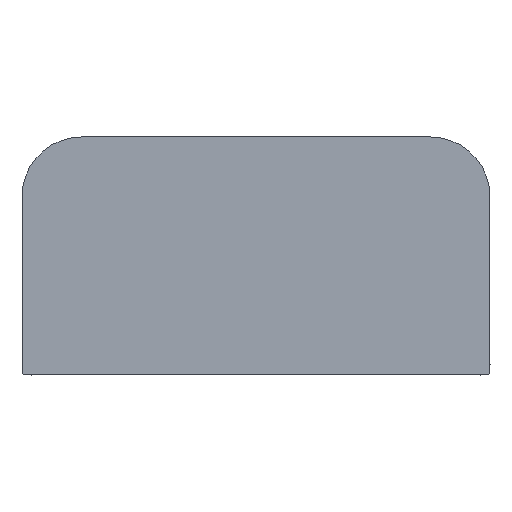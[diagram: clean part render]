
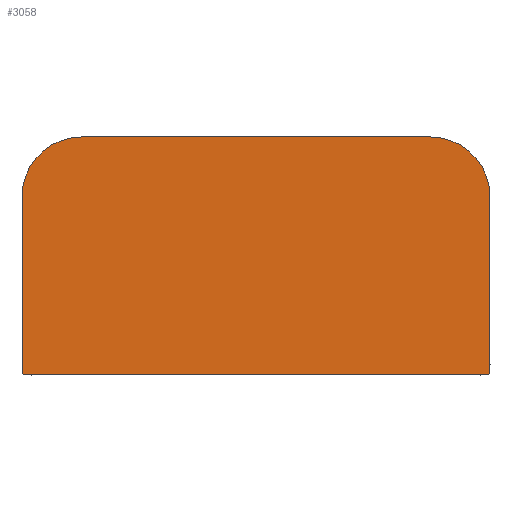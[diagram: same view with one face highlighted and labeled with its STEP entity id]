
A CAD part, front view. The second image highlights one B-rep face of the part: STEP entity #3058.
In plain terms, the highlighted planar face has unit normal (0, -1, 0).
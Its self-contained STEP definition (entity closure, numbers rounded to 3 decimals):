
#20=PLANE('',#3197);
#36=LINE('',#21586,#58);
#42=LINE('',#54538,#64);
#43=LINE('',#54540,#65);
#44=LINE('',#54543,#66);
#58=VECTOR('',#3303,10.);
#64=VECTOR('',#3363,10.);
#65=VECTOR('',#3364,10.);
#66=VECTOR('',#3367,10.);
#84=CIRCLE('',#3140,1.);
#109=CIRCLE('',#3169,15.);
#119=CIRCLE('',#3182,1.);
#133=CIRCLE('',#3198,15.);
#253=FACE_OUTER_BOUND('',#419,.T.);
#419=EDGE_LOOP('',(#2353,#2354,#2355,#2356,#2357,#2358,#2359,#2360));
#922=VERTEX_POINT('',#4489);
#923=VERTEX_POINT('',#4490);
#1034=VERTEX_POINT('',#21576);
#1035=VERTEX_POINT('',#21578);
#1108=VERTEX_POINT('',#47102);
#1109=VERTEX_POINT('',#47103);
#1136=VERTEX_POINT('',#54539);
#1137=VERTEX_POINT('',#54541);
#1278=EDGE_CURVE('',#922,#923,#84,.F.);
#1431=EDGE_CURVE('',#1035,#1034,#109,.F.);
#1434=EDGE_CURVE('',#923,#1035,#36,.T.);
#1546=EDGE_CURVE('',#1108,#1109,#119,.F.);
#1590=EDGE_CURVE('',#1108,#922,#42,.F.);
#1591=EDGE_CURVE('',#1136,#1034,#43,.T.);
#1592=EDGE_CURVE('',#1137,#1136,#133,.F.);
#1593=EDGE_CURVE('',#1109,#1137,#44,.T.);
#2353=ORIENTED_EDGE('',*,*,#1546,.F.);
#2354=ORIENTED_EDGE('',*,*,#1590,.T.);
#2355=ORIENTED_EDGE('',*,*,#1278,.T.);
#2356=ORIENTED_EDGE('',*,*,#1434,.T.);
#2357=ORIENTED_EDGE('',*,*,#1431,.T.);
#2358=ORIENTED_EDGE('',*,*,#1591,.F.);
#2359=ORIENTED_EDGE('',*,*,#1592,.F.);
#2360=ORIENTED_EDGE('',*,*,#1593,.F.);
#3058=ADVANCED_FACE('',(#253),#20,.T.);
#3140=AXIS2_PLACEMENT_3D('',#4491,#3235,#3236);
#3169=AXIS2_PLACEMENT_3D('',#21579,#3298,#3299);
#3182=AXIS2_PLACEMENT_3D('',#47104,#3329,#3330);
#3197=AXIS2_PLACEMENT_3D('',#54537,#3361,#3362);
#3198=AXIS2_PLACEMENT_3D('',#54542,#3365,#3366);
#3235=DIRECTION('center_axis',(0.,1.,0.));
#3236=DIRECTION('ref_axis',(0.707,0.,-0.707));
#3298=DIRECTION('center_axis',(0.,1.,0.));
#3299=DIRECTION('ref_axis',(0.707,0.,0.707));
#3303=DIRECTION('',(0.,0.,1.));
#3329=DIRECTION('center_axis',(0.,-1.,0.));
#3330=DIRECTION('ref_axis',(-0.707,0.,-0.707));
#3361=DIRECTION('center_axis',(0.,-1.,0.));
#3362=DIRECTION('ref_axis',(0.,0.,1.));
#3363=DIRECTION('',(-1.,0.,0.));
#3364=DIRECTION('',(1.,0.,0.));
#3365=DIRECTION('center_axis',(0.,-1.,0.));
#3366=DIRECTION('ref_axis',(-0.707,0.,0.707));
#3367=DIRECTION('',(0.,0.,1.));
#4489=CARTESIAN_POINT('',(58.,-3.,-56.));
#4490=CARTESIAN_POINT('',(59.,-3.,-55.));
#4491=CARTESIAN_POINT('Origin',(58.,-3.,-55.));
#21576=CARTESIAN_POINT('',(44.,-3.,4.));
#21578=CARTESIAN_POINT('',(59.,-3.,-11.));
#21579=CARTESIAN_POINT('Origin',(44.,-3.,-11.));
#21586=CARTESIAN_POINT('',(59.,-3.,-39.638));
#47102=CARTESIAN_POINT('',(-58.,-3.,-56.));
#47103=CARTESIAN_POINT('',(-59.,-3.,-55.));
#47104=CARTESIAN_POINT('Origin',(-58.,-3.,-55.));
#54537=CARTESIAN_POINT('Origin',(0.,-3.,-56.));
#54538=CARTESIAN_POINT('',(0.,-3.,-56.));
#54539=CARTESIAN_POINT('',(-44.,-3.,4.));
#54540=CARTESIAN_POINT('',(0.,-3.,4.));
#54541=CARTESIAN_POINT('',(-59.,-3.,-11.));
#54542=CARTESIAN_POINT('Origin',(-44.,-3.,-11.));
#54543=CARTESIAN_POINT('',(-59.,-3.,-39.638));
